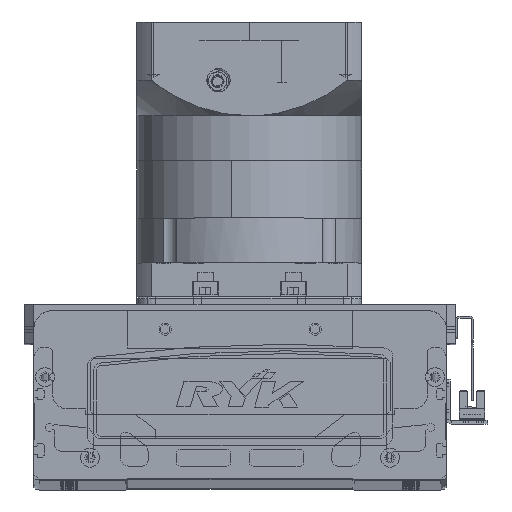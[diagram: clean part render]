
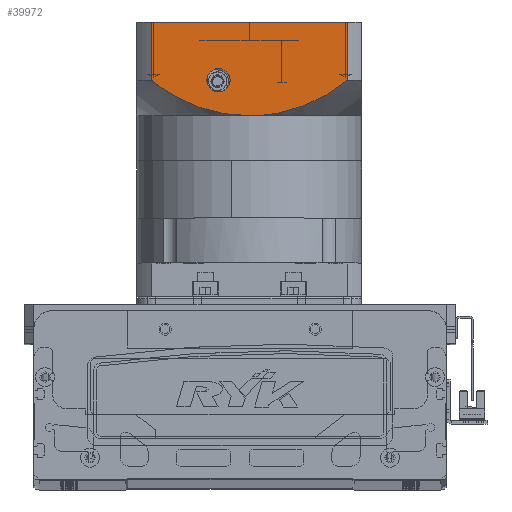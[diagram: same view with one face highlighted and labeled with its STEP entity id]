
A CAD part, top view. The second image highlights one B-rep face of the part: STEP entity #39972.
In plain terms, the highlighted planar face has unit normal (0, 0, 1) as drawn and (0, -1, 0) by its records, which use the part's own axes.
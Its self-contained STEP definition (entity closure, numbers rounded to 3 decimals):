
#661 = EDGE_CURVE ( 'NONE', #51385, #20267, #54496, .T. ) ;
#913 = VERTEX_POINT ( 'NONE', #11233 ) ;
#965 = CARTESIAN_POINT ( 'NONE',  ( -52.156, -60., -119.5 ) ) ;
#3184 = EDGE_CURVE ( 'NONE', #20267, #913, #7101, .T. ) ;
#3537 = CARTESIAN_POINT ( 'NONE',  ( 18.739, -60., -102.681 ) ) ;
#4036 = CARTESIAN_POINT ( 'NONE',  ( 15.267, -60., -101.938 ) ) ;
#5750 = VECTOR ( 'NONE', #42737, 1000. ) ;
#6607 = CARTESIAN_POINT ( 'NONE',  ( 16.5, -60., -119.5 ) ) ;
#6923 = EDGE_CURVE ( 'NONE', #40135, #51385, #22640, .T. ) ;
#7101 = B_SPLINE_CURVE_WITH_KNOTS ( 'NONE', 3,
 ( #30878, #70641, #55216, #4036, #55725, #3537, #71879, #14959, #26896, #38057, #43272, #21414, #9265, #21182, #49007, #66185, #72128, #43770 ),
 .UNSPECIFIED., .F., .F.,
 ( 4, 2, 2, 2, 2, 2, 2, 2, 4 ),
 ( 0., 0.014, 0.018, 0.021, 0.028, 0.042, 0.046, 0.05, 0.057 ),
 .UNSPECIFIED. ) ;
#9265 = CARTESIAN_POINT ( 'NONE',  ( 42.555, -60., -112.543 ) ) ;
#10183 = CARTESIAN_POINT ( 'NONE',  ( -60., -60., -150.5 ) ) ;
#10994 = ORIENTED_EDGE ( 'NONE', *, *, #6923, .F. ) ;
#11233 = CARTESIAN_POINT ( 'NONE',  ( 52.156, -60., -119.5 ) ) ;
#13238 = LINE ( 'NONE', #10183, #55055 ) ;
#13777 = CIRCLE ( 'NONE', #50915, 6.25 ) ;
#13951 = CARTESIAN_POINT ( 'NONE',  ( -52.156, -60., -150.5 ) ) ;
#14448 = VECTOR ( 'NONE', #52290, 1000. ) ;
#14959 = CARTESIAN_POINT ( 'NONE',  ( 23.329, -60., -103.886 ) ) ;
#19732 = CARTESIAN_POINT ( 'NONE',  ( 16.5, -60., -125.75 ) ) ;
#19942 = CARTESIAN_POINT ( 'NONE',  ( -23.319, -60., -103.777 ) ) ;
#20176 = EDGE_CURVE ( 'NONE', #40135, #60451, #13238, .T. ) ;
#20190 = CARTESIAN_POINT ( 'NONE',  ( 0., -60., -100.5 ) ) ;
#20267 = VERTEX_POINT ( 'NONE', #22810 ) ;
#21182 = CARTESIAN_POINT ( 'NONE',  ( 44.553, -60., -113.817 ) ) ;
#21414 = CARTESIAN_POINT ( 'NONE',  ( 41.545, -60., -111.931 ) ) ;
#22640 = LINE ( 'NONE', #42974, #5750 ) ;
#22810 = CARTESIAN_POINT ( 'NONE',  ( 0., -60., -100.5 ) ) ;
#23913 = EDGE_CURVE ( 'NONE', #60451, #913, #28714, .T. ) ;
#25068 = FACE_BOUND ( 'NONE', #73566, .T. ) ;
#25438 = CARTESIAN_POINT ( 'NONE',  ( -36.409, -60., -109.113 ) ) ;
#25673 = CARTESIAN_POINT ( 'NONE',  ( -12.993, -60., -101.537 ) ) ;
#26090 = VERTEX_POINT ( 'NONE', #46942 ) ;
#26434 = CARTESIAN_POINT ( 'NONE',  ( -44.656, -60., -113.73 ) ) ;
#26896 = CARTESIAN_POINT ( 'NONE',  ( 25.577, -60., -104.596 ) ) ;
#28714 = LINE ( 'NONE', #40825, #14448 ) ;
#30878 = CARTESIAN_POINT ( 'NONE',  ( 0., -60., -100.5 ) ) ;
#30970 = EDGE_LOOP ( 'NONE', ( #10994, #31196, #56800, #52273, #70397 ) ) ;
#31132 = CARTESIAN_POINT ( 'NONE',  ( -35.342, -60., -108.587 ) ) ;
#31196 = ORIENTED_EDGE ( 'NONE', *, *, #20176, .T. ) ;
#31384 = CARTESIAN_POINT ( 'NONE',  ( -11.825, -60., -101.356 ) ) ;
#32118 = CARTESIAN_POINT ( 'NONE',  ( -39.546, -60., -110.776 ) ) ;
#35121 = DIRECTION ( 'NONE',  ( 1., 0., 0. ) ) ;
#35610 = CARTESIAN_POINT ( 'NONE',  ( -60., -60., -150.5 ) ) ;
#37092 = CARTESIAN_POINT ( 'NONE',  ( -4.747, -60., -100.604 ) ) ;
#37346 = CARTESIAN_POINT ( 'NONE',  ( -29.939, -60., -106.183 ) ) ;
#38057 = CARTESIAN_POINT ( 'NONE',  ( 32.196, -60., -107.007 ) ) ;
#39266 = ORIENTED_EDGE ( 'NONE', *, *, #49942, .T. ) ;
#39972 = ADVANCED_FACE ( 'NONE', ( #44583, #25068 ), #47013, .T. ) ;
#40135 = VERTEX_POINT ( 'NONE', #13951 ) ;
#40823 = DIRECTION ( 'NONE',  ( 0., -1., 0. ) ) ;
#40825 = CARTESIAN_POINT ( 'NONE',  ( 52.156, -60., -150.5 ) ) ;
#42737 = DIRECTION ( 'NONE',  ( 0., 0., 1. ) ) ;
#42811 = CARTESIAN_POINT ( 'NONE',  ( -2.376, -60., -100.5 ) ) ;
#42974 = CARTESIAN_POINT ( 'NONE',  ( -52.156, -60., -97.5 ) ) ;
#43272 = CARTESIAN_POINT ( 'NONE',  ( 36.444, -60., -108.986 ) ) ;
#43770 = CARTESIAN_POINT ( 'NONE',  ( 52.156, -60., -119.5 ) ) ;
#44583 = FACE_OUTER_BOUND ( 'NONE', #30970, .T. ) ;
#45192 = DIRECTION ( 'NONE',  ( 0., 1., 0. ) ) ;
#46942 = CARTESIAN_POINT ( 'NONE',  ( 16.5, -60., -113.25 ) ) ;
#47013 = PLANE ( 'NONE',  #62120 ) ;
#47065 = VERTEX_POINT ( 'NONE', #19732 ) ;
#47068 = DIRECTION ( 'NONE',  ( 0., 1., 0. ) ) ;
#49007 = CARTESIAN_POINT ( 'NONE',  ( 45.542, -60., -114.478 ) ) ;
#49576 = EDGE_CURVE ( 'NONE', #26090, #47065, #13777, .T. ) ;
#49942 = EDGE_CURVE ( 'NONE', #47065, #26090, #67994, .T. ) ;
#50915 = AXIS2_PLACEMENT_3D ( 'NONE', #6607, #47068, #64496 ) ;
#51385 = VERTEX_POINT ( 'NONE', #965 ) ;
#52273 = ORIENTED_EDGE ( 'NONE', *, *, #3184, .F. ) ;
#52290 = DIRECTION ( 'NONE',  ( 0., 0., 1. ) ) ;
#54021 = CARTESIAN_POINT ( 'NONE',  ( -32.118, -60., -107.084 ) ) ;
#54273 = CARTESIAN_POINT ( 'NONE',  ( -8.294, -60., -100.916 ) ) ;
#54496 = B_SPLINE_CURVE_WITH_KNOTS ( 'NONE', 3,
 ( #65443, #60007, #26434, #32118, #59526, #25438, #31132, #54021, #37346, #19942, #59774, #25673, #31384, #71146, #54273, #37092, #42811, #20190 ),
 .UNSPECIFIED., .F., .F.,
 ( 4, 2, 2, 2, 2, 2, 2, 2, 4 ),
 ( 0., 0.014, 0.018, 0.021, 0.028, 0.042, 0.046, 0.05, 0.057 ),
 .UNSPECIFIED. ) ;
#55055 = VECTOR ( 'NONE', #55171, 1000. ) ;
#55171 = DIRECTION ( 'NONE',  ( 1., 0., 0. ) ) ;
#55216 = CARTESIAN_POINT ( 'NONE',  ( 9.454, -60., -100.914 ) ) ;
#55725 = CARTESIAN_POINT ( 'NONE',  ( 16.426, -60., -102.169 ) ) ;
#56031 = CARTESIAN_POINT ( 'NONE',  ( 52.156, -60., -150.5 ) ) ;
#56680 = DIRECTION ( 'NONE',  ( 0., 0., -1. ) ) ;
#56800 = ORIENTED_EDGE ( 'NONE', *, *, #23913, .T. ) ;
#59526 = CARTESIAN_POINT ( 'NONE',  ( -38.51, -60., -110.207 ) ) ;
#59774 = CARTESIAN_POINT ( 'NONE',  ( -18.792, -60., -102.562 ) ) ;
#60007 = CARTESIAN_POINT ( 'NONE',  ( -48.52, -60., -116.438 ) ) ;
#60451 = VERTEX_POINT ( 'NONE', #56031 ) ;
#62120 = AXIS2_PLACEMENT_3D ( 'NONE', #35610, #40823, #35121 ) ;
#64459 = ORIENTED_EDGE ( 'NONE', *, *, #49576, .T. ) ;
#64496 = DIRECTION ( 'NONE',  ( 0., 0., -1. ) ) ;
#64748 = AXIS2_PLACEMENT_3D ( 'NONE', #73791, #45192, #56680 ) ;
#65443 = CARTESIAN_POINT ( 'NONE',  ( -52.156, -60., -119.5 ) ) ;
#66185 = CARTESIAN_POINT ( 'NONE',  ( 48.457, -60., -116.522 ) ) ;
#67994 = CIRCLE ( 'NONE', #64748, 6.25 ) ;
#70397 = ORIENTED_EDGE ( 'NONE', *, *, #661, .F. ) ;
#70641 = CARTESIAN_POINT ( 'NONE',  ( 4.753, -60., -100.5 ) ) ;
#71146 = CARTESIAN_POINT ( 'NONE',  ( -9.477, -60., -101.046 ) ) ;
#71879 = CARTESIAN_POINT ( 'NONE',  ( 19.894, -60., -102.964 ) ) ;
#72128 = CARTESIAN_POINT ( 'NONE',  ( 50.338, -60., -117.969 ) ) ;
#73566 = EDGE_LOOP ( 'NONE', ( #39266, #64459 ) ) ;
#73791 = CARTESIAN_POINT ( 'NONE',  ( 16.5, -60., -119.5 ) ) ;
